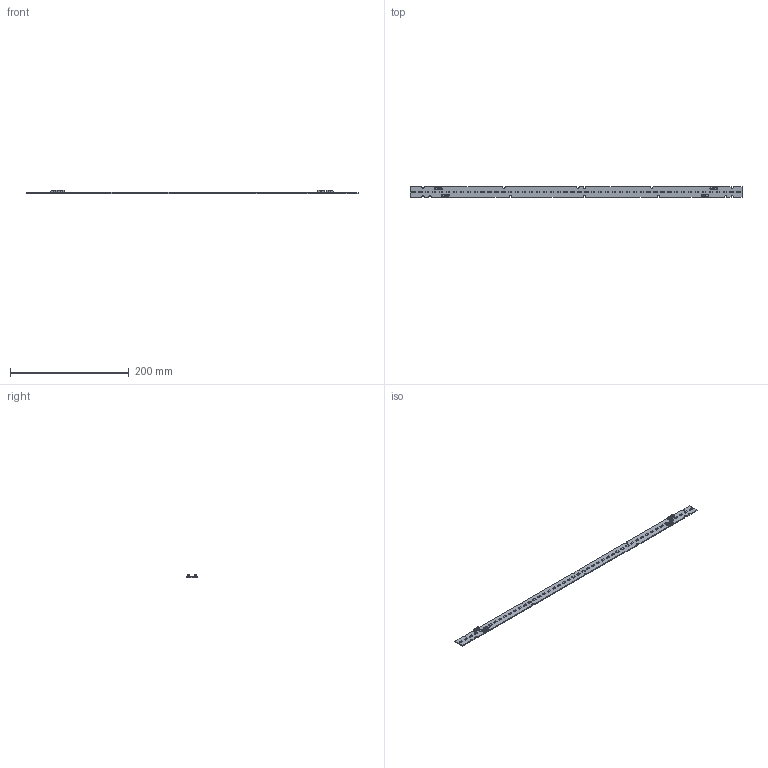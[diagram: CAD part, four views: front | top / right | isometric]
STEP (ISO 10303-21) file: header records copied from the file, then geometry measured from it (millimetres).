
FILE_DESCRIPTION(/* description */ (''),/* implementation_level */ '2;1');
FILE_NAME(/* name */ 'M562C_G2_MODULE.stp',/* time_stamp */ '2016-03-28T18:36:54+09:00',/* author */ (''),/* organization */ (''),/* preprocessor_version */ 'ST-DEVELOPER v15',/* originating_system */ 'SIEMENS PLM Software NX 8.5',/* authorisation */ '');
FILE_SCHEMA (('AP203_CONFIGURATION_CONTROLLED_3D_DESIGN_OF_MECHANICAL_PARTS_AND_ASSEMBLIES_MIM_LF { 1 0 10303 403 2 1 2}'));
Products named in the file (1): jjjj034498ACqt5u
Bounding box: 560 x 18 x 5.75 mm (x, y, z)
Volume: 16604.6 mm3; surface area: 26412.6 mm2
Topology: 57 solids, 57 shells, 2440 faces, 7993 edges, 6174 vertices
Faces by surface type: plane 2183, cylinder 194, bspline 24, torus 20, extrusion 11, sphere 8
Entity records: 107813 total; most frequent: CARTESIAN_POINT 42704, ORIENTED_EDGE 13484, DIRECTION 12403, EDGE_CURVE 6742, VECTOR 6701, LINE 6690, VERTEX_POINT 4444, AXIS2_PLACEMENT_3D 2851
